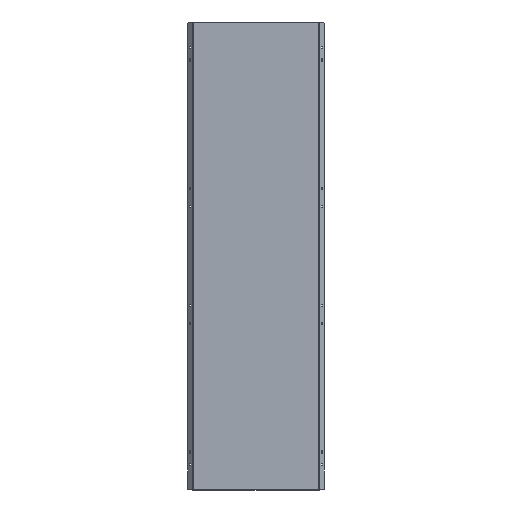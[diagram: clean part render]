
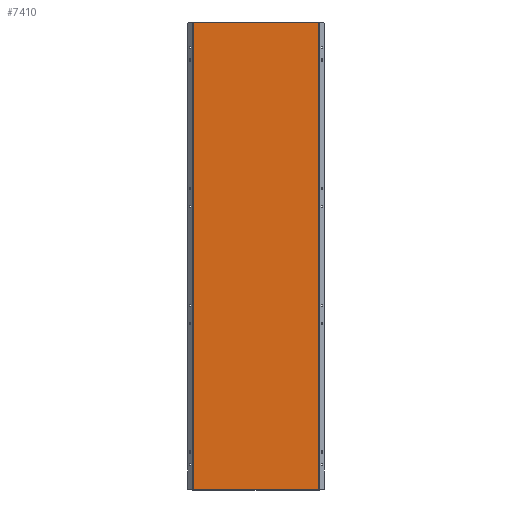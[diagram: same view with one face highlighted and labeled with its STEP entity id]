
A CAD part, top view. The second image highlights one B-rep face of the part: STEP entity #7410.
In plain terms, the highlighted planar face has unit normal (0, 0, 1).
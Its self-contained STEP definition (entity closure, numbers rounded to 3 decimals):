
#217 = LINE ( 'NONE', #3895, #3745 ) ;
#1014 = DIRECTION ( 'NONE',  ( 0., -1., 0. ) ) ;
#1365 = CARTESIAN_POINT ( 'NONE',  ( 261.5, -970.5, 0. ) ) ;
#2066 = ORIENTED_EDGE ( 'NONE', *, *, #7589, .T. ) ;
#2071 = DIRECTION ( 'NONE',  ( -1., 0., 0. ) ) ;
#2226 = CARTESIAN_POINT ( 'NONE',  ( 0., 0., 0. ) ) ;
#2336 = DIRECTION ( 'NONE',  ( 1., 0., 0. ) ) ;
#2611 = CARTESIAN_POINT ( 'NONE',  ( -261.5, 970.5, 0. ) ) ;
#2645 = ORIENTED_EDGE ( 'NONE', *, *, #6613, .T. ) ;
#3017 = CARTESIAN_POINT ( 'NONE',  ( 261.5, 970.5, 0. ) ) ;
#3128 = AXIS2_PLACEMENT_3D ( 'NONE', #2226, #6484, #2071 ) ;
#3422 = FACE_OUTER_BOUND ( 'NONE', #5052, .T. ) ;
#3745 = VECTOR ( 'NONE', #5748, 1000. ) ;
#3895 = CARTESIAN_POINT ( 'NONE',  ( -261.5, 970.5, 0. ) ) ;
#4008 = VECTOR ( 'NONE', #7497, 1000. ) ;
#4261 = CARTESIAN_POINT ( 'NONE',  ( -261.5, -970.5, 0. ) ) ;
#4296 = CARTESIAN_POINT ( 'NONE',  ( 261.5, -970.5, 0. ) ) ;
#4332 = VERTEX_POINT ( 'NONE', #3017 ) ;
#4667 = PLANE ( 'NONE',  #3128 ) ;
#4875 = VERTEX_POINT ( 'NONE', #4296 ) ;
#4896 = VECTOR ( 'NONE', #1014, 1000. ) ;
#4924 = VECTOR ( 'NONE', #2336, 1000. ) ;
#4950 = ORIENTED_EDGE ( 'NONE', *, *, #7017, .T. ) ;
#5052 = EDGE_LOOP ( 'NONE', ( #4950, #2645, #5408, #2066 ) ) ;
#5135 = CARTESIAN_POINT ( 'NONE',  ( -261.5, -970.5, 0. ) ) ;
#5322 = VERTEX_POINT ( 'NONE', #2611 ) ;
#5390 = LINE ( 'NONE', #4261, #4924 ) ;
#5408 = ORIENTED_EDGE ( 'NONE', *, *, #5482, .T. ) ;
#5482 = EDGE_CURVE ( 'NONE', #5322, #6548, #7697, .T. ) ;
#5748 = DIRECTION ( 'NONE',  ( -1., 0., 0. ) ) ;
#6484 = DIRECTION ( 'NONE',  ( 0., 0., -1. ) ) ;
#6548 = VERTEX_POINT ( 'NONE', #5135 ) ;
#6613 = EDGE_CURVE ( 'NONE', #4332, #5322, #217, .T. ) ;
#6932 = LINE ( 'NONE', #1365, #4008 ) ;
#7017 = EDGE_CURVE ( 'NONE', #4875, #4332, #6932, .T. ) ;
#7052 = CARTESIAN_POINT ( 'NONE',  ( -261.5, -970.5, 0. ) ) ;
#7410 = ADVANCED_FACE ( 'NONE', ( #3422 ), #4667, .F. ) ;
#7497 = DIRECTION ( 'NONE',  ( 0., 1., 0. ) ) ;
#7589 = EDGE_CURVE ( 'NONE', #6548, #4875, #5390, .T. ) ;
#7697 = LINE ( 'NONE', #7052, #4896 ) ;
